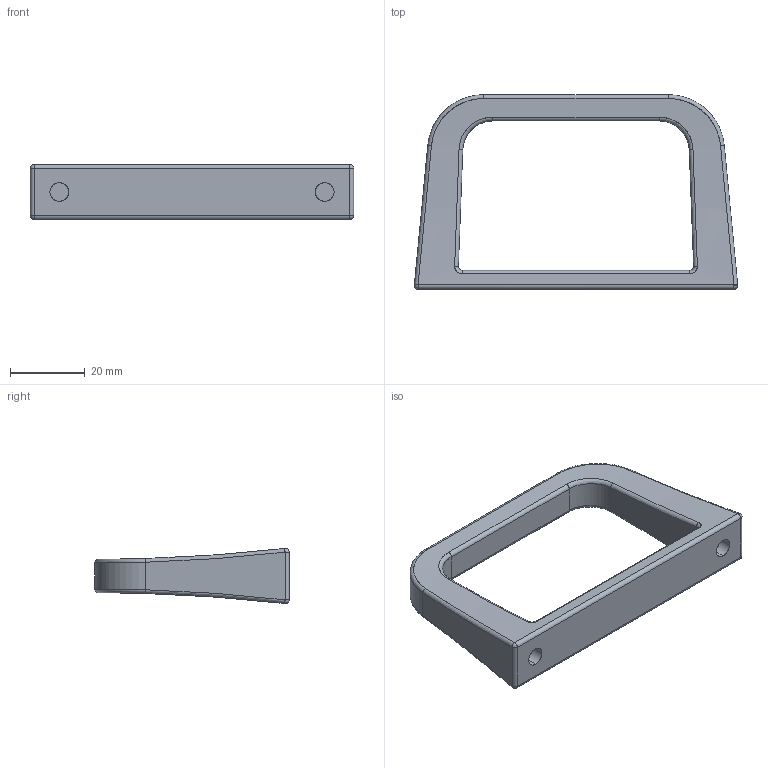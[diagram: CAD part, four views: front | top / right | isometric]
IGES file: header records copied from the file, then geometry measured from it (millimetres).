
Start section: SolidWorks IGES file using analytic representation for surfaces
Global section: file name: C:\Documents and Settings\Deathkiller\桌面\3D IGES\U型把手 U Handles\MS-518 series\MS-518-2U.IGS; native system: SolidWorks 2006 by SolidWorks Corporation; preprocessor: SolidWorks 2006 by SolidWorks Corporation; author: Deathkiller; date: 080806.091959; units: millimetre
Bounding box: 86.5 x 52 x 14.75 mm (x, y, z)
Surface area: 8865.4 mm2 (no closed solid volume)
Topology: 0 solids, 0 shells, 62 faces, 552 edges, 546 vertices
Faces by surface type: revolution 32, bspline 30
